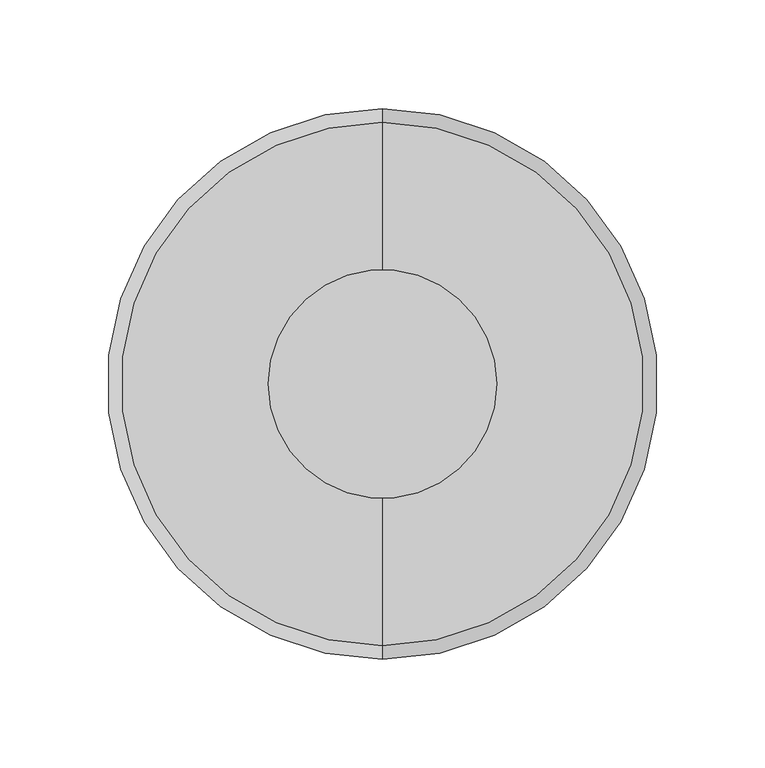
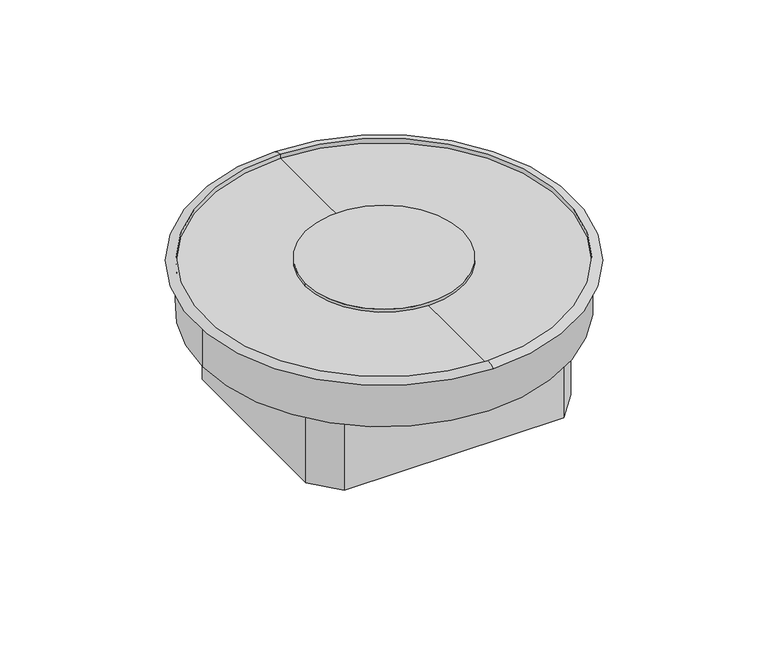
"""IFC4 building model written with IfcOpenShell, lengths in millimetres: proxy geometry, Electrical_Installation_Hager_VE-EE_VANR_3mm_Service-unit-for-wet-cleaned-floors-for-the-installation-of-tube-cable-outlets-made-of-aluminium : Service unit R2 w set BD wet Al-Tub 3mm."""

from ifc_helpers import new_model, si_unit, point, frame, origin, origin_with_axes, origin_2d, place, context, project, spatial, polyline, circle_curve, ellipse_curve, trimmed, segment, composite_curve, outline, extrude, source, transform, mapped, element, save
from ifc_brep_helpers import plane_surface, cylinder_surface, revolved_surface, advanced_brep


def electrical_fixtures_0c983d80(model_context):
    return source(origin(), model_context, "Body", "SolidModel", [
        extrude(outline(composite_curve([segment(trimmed(circle_curve(origin_2d(), 52.5), [point((-52.5, 0.0))], [point((52.5, 0.0))], False, "CARTESIAN"), True, "CONTINUOUS"), segment(trimmed(circle_curve(origin_2d(), 52.5), [point((52.5, 0.0))], [point((-52.5, 0.0))], False, "CARTESIAN"), True, "CONTINUOUS")], self_intersect=False)), origin_with_axes(), (0.0, 0.0, 1.0), 2.0),
        extrude(outline(polyline([(-87.0713294, -60.5396398), (-87.0713294, 59.7392029), (-72.1428496, 77.5997816), (74.461121, 77.5997816), (89.9286706, 59.3992323), (89.9286706, -60.5396398), (74.6779783, -78.4002184), (-71.820637, -78.4002184), (-87.0713294, -60.5396398)]), holes=[polyline([(-84.5713294, 59.8409635), (-84.5713294, -60.6414004), (-71.542214, -75.9002184), (74.3995552, -75.9002184), (87.4286706, -60.6414004), (87.4286706, 59.8409635), (74.461121, 75.0997816), (-71.8174897, 75.0997816), (-84.5713294, 59.8409635)])]), frame((0.0, 0.0, -90.0), z_axis=(0.0, 0.0, 1.0), x_axis=(1.0, 0.0, 0.0)), (0.0, 0.0, 1.0), 57.0),
        extrude(outline(composite_curve([segment(trimmed(circle_curve(origin_2d(), 121.0), [point((-121.0, 0.0))], [point((121.0, 0.0))], False, "CARTESIAN"), True, "CONTINUOUS"), segment(trimmed(circle_curve(origin_2d(), 121.0), [point((121.0, 0.0))], [point((-121.0, 0.0))], False, "CARTESIAN"), True, "CONTINUOUS")], self_intersect=False), holes=[polyline([(74.3995552, -75.9002184), (87.4286706, -60.6414004), (87.4286706, 59.8409635), (74.461121, 75.0997816), (-71.8174897, 75.0997816), (-84.5713294, 59.8409635), (-84.5713294, -60.6414004), (-71.542214, -75.9002184), (74.3995552, -75.9002184)])]), frame((0.0, 0.0, -33.0), z_axis=(0.0, 0.0, 1.0), x_axis=(1.0, 0.0, 0.0)), (0.0, 0.0, 1.0), 30.5198418),
        advanced_brep(
        [(0.0, -120.2455959, -1.0), (0.0, 120.2455959, -1.0), (0.0, 120.2455959, 1.8949845), (0.0, -120.2455959, 1.8949845), (0.0, 0.0, -1.0), (0.0, 126.5, 0.0), (0.0, -126.5, 0.0), (0.0, -120.9785114, -2.4801582), (0.0, 120.9785114, -2.4801582), (0.0, 0.0, -2.4801582), (0.0, -120.9785114, 0.0), (0.0, 120.9785114, 0.0)],
        [
            (0, 1, circle_curve(frame((0.0, 0.0, -1.0), z_axis=(0.0, 0.0, -1.0), x_axis=(0.0, 1.0, 0.0)), 120.2455959)),
            (1, 2),
            (2, 3, circle_curve(frame((0.0, 0.0, 1.8949845), z_axis=(0.0, 0.0, 1.0), x_axis=(0.0, 1.0, 0.0)), 120.2455959)),
            (3, 0),
            (1, 0, circle_curve(frame((0.0, 0.0, -1.0), z_axis=(0.0, 0.0, -1.0), x_axis=(0.0, 1.0, 0.0)), 120.2455959)),
            (3, 2, circle_curve(frame((0.0, 0.0, 1.8949845), z_axis=(0.0, 0.0, 1.0), x_axis=(0.0, 1.0, 0.0)), 120.2455959)),
            (4, 1),
            (0, 4),
            (2, 5, circle_curve(frame((0.0, 118.4758851, -15.2147882), z_axis=(-1.0, 0.0, 0.0), x_axis=(0.0, 1.0, 0.0)), 17.2010523)),
            (5, 6, circle_curve(frame((0.0, 0.0, 0.0), z_axis=(0.0, 0.0, 1.0), x_axis=(0.0, 1.0, 0.0)), 126.5)),
            (6, 3, circle_curve(frame((0.0, -118.4758851, -15.2147882), z_axis=(-1.0, 0.0, 0.0), x_axis=(0.0, -1.0, 0.0)), 17.2010523)),
            (6, 5, circle_curve(frame((0.0, 0.0, 0.0), z_axis=(0.0, 0.0, 1.0), x_axis=(0.0, 1.0, 0.0)), 126.5)),
            (7, 8, circle_curve(frame((0.0, 0.0, -2.4801582), z_axis=(0.0, 0.0, -1.0), x_axis=(0.0, 1.0, 0.0)), 120.9785114)),
            (8, 9),
            (9, 7),
            (8, 7, circle_curve(frame((0.0, 0.0, -2.4801582), z_axis=(0.0, 0.0, -1.0), x_axis=(0.0, 1.0, 0.0)), 120.9785114)),
            (10, 11, circle_curve(frame((0.0, 0.0, 0.0), z_axis=(0.0, 0.0, -1.0), x_axis=(0.0, 1.0, 0.0)), 120.9785114)),
            (11, 8),
            (7, 10),
            (11, 10, circle_curve(frame((0.0, 0.0, 0.0), z_axis=(0.0, 0.0, -1.0), x_axis=(0.0, 1.0, 0.0)), 120.9785114)),
            (5, 11),
            (10, 6),
        ],
        [
            revolved_surface(polyline([(0.0, 120.2455959, 1.8949845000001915), (0.0, 120.2455959, -1.0)]), (0.0, 0.0, 2341.8067943), (0.0, 0.0, 1.0)),
            plane_surface(frame((0.0, 0.0, -1.0), z_axis=(0.0, 0.0, 1.0), x_axis=(0.0, 1.0, 0.0))),
            revolved_surface(trimmed(ellipse_curve(frame((0.0, 118.4758851, -15.2147882), z_axis=(1.0, 0.0, 0.0), x_axis=(0.0, 1.0, 0.0)), 17.2010523, 17.2010523), [point((0.0, 126.5, 0.0))], [point((0.0, 120.2455959, 1.8949845))], True, "CARTESIAN"), (0.0, 0.0, 2341.8067943), (0.0, 0.0, 1.0)),
            plane_surface(frame((0.0, 0.0, -2.4801582), z_axis=(0.0, 0.0, -1.0), x_axis=(0.0, 1.0, 0.0))),
            cylinder_surface(frame((0.0, 0.0, 2341.8067943), z_axis=(0.0, 0.0, 1.0), x_axis=(0.0, 1.0, 0.0)), 120.9785114),
            plane_surface(frame((0.0, 0.0, 0.0), z_axis=(0.0, 0.0, -1.0), x_axis=(0.0, 1.0, 0.0))),
        ],
        [
            (0, [[1, 2, 3, 4]]),
            (0, [[5, -4, 6, -2]]),
            (1, [[7, -1, 8]]),
            (1, [[-8, -5, -7]]),
            (2, [[-3, 9, 10, 11]]),
            (2, [[-6, -11, 12, -9]]),
            (3, [[13, 14, 15]]),
            (3, [[16, -15, -14]]),
            (4, [[17, 18, -13, 19]]),
            (4, [[20, -19, -16, -18]]),
            (5, [[-10, 21, -17, 22]]),
            (5, [[-12, -22, -20, -21]]),
        ],
    ),
    ])


if __name__ == "__main__":
    model = new_model("IFC4")
    model_context = context("Model", 3, world=origin())
    ifc_project = project(units=[si_unit("LENGTHUNIT", "METRE", prefix="MILLI")], contexts=[model_context])
    site = spatial("IfcSite", under=ifc_project)
    building = spatial("IfcBuilding", under=site)
    placement = place(None, origin())
    electrical_fixtures_shape = electrical_fixtures_0c983d80(model_context)
    element("IfcBuildingElementProxy", 1, Name="Electrical_Installation_Hager_VE-EE_VANR_3mm_Service-unit-for-wet-cleaned-floors-for-the-installation-of-tube-cable-outlets-made-of-aluminium : Service unit R2 w set BD wet Al-Tub 3mm", ObjectType="Electrical_Installation_Hager_VE-EE_VANR_3mm_Service-unit-for-wet-cleaned-floors-for-the-installation-of-tube-cable-outlets-made-of-aluminium : Service unit R2 w set BD wet Al-Tub 3mm", at=placement, inside=building, context=model_context, shape_type="MappedRepresentation", body=[
        mapped(electrical_fixtures_shape, transform((0.0, 0.0, 0.0), x_axis=(1.0, 0.0, 0.0), y_axis=(0.0, 1.0, 0.0), z_axis=(0.0, 0.0, 1.0))),
    ])
    save(model, "model.ifc")
